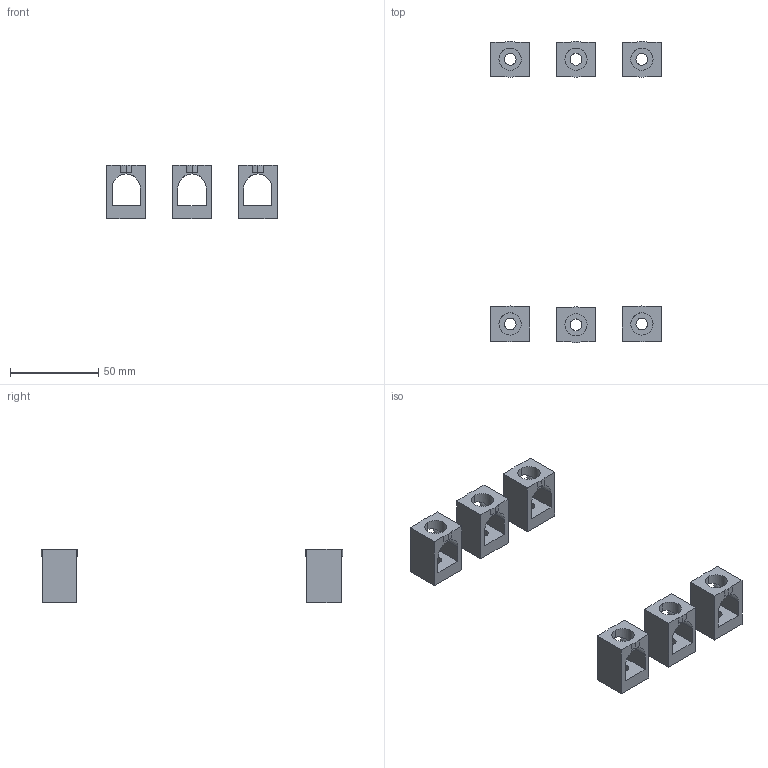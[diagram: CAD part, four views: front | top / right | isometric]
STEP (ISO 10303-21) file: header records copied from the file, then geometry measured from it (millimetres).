
FILE_DESCRIPTION (( 'STEP AP214' ), '1' );
FILE_NAME ('Êîìïëåêò çàæèìîâ îäíîãíåçäíûõ 185 êâ ìì ÂÀ04-36ÂÀ51-35-ÓÕË3 200 À, 250 À.STEP', '2023-07-24T12:36:08', ( '' ), ( '' ), 'SwSTEP 2.0', 'SolidWorks 2018', '' );
FILE_SCHEMA (( 'AUTOMOTIVE_DESIGN' ));
Length unit declared in the file: millimetre
Products named in the file (1): Êîìïëåêò çàæèìîâ îäíîãíåçäíûõ 185 êâ ìì ÂÀ04-36ÂÀ51-35-ÓÕË3 200 À, 250 À
Bounding box: 96.68 x 170.95 x 30.56 mm (x, y, z)
Volume: 42030.6 mm3; surface area: 24794 mm2
Topology: 6 solids, 6 shells, 114 faces, 306 edges, 204 vertices
Faces by surface type: plane 66, cylinder 48
Entity records: 5495 total; most frequent: CARTESIAN_POINT 1165, ORIENTED_EDGE 612, DIRECTION 608, EDGE_CURVE 306, VECTOR 210, LINE 210, VERTEX_POINT 204, AXIS2_PLACEMENT_3D 199
